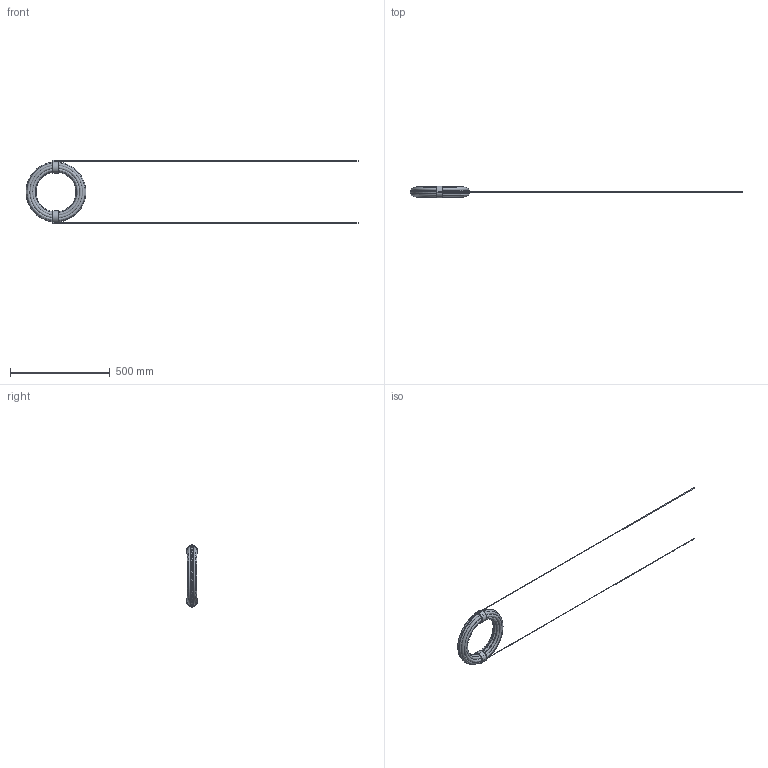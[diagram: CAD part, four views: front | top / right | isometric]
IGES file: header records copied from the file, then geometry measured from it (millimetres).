
Start section: SolidWorks IGES file using analytic representation for surfaces
Global section: file name: C:\Users\Agus\Desktop\NOVEDADES_2023_1\ELLI_1311\C1311-S\3D\ELLI_C1311-S.IGS; native system: SolidWorks 2018; preprocessor: SolidWorks 2018; author: Agus; date: 230214.123923; units: millimetre
Bounding box: 1664.97 x 57.95 x 318 mm (x, y, z)
Surface area: 228657.8 mm2 (no closed solid volume)
Topology: 0 solids, 0 shells, 54 faces, 864 edges, 864 vertices
Faces by surface type: bspline 40, revolution 14
